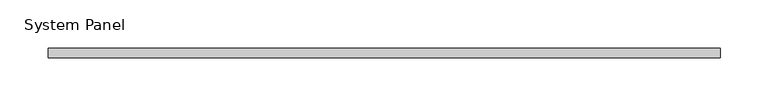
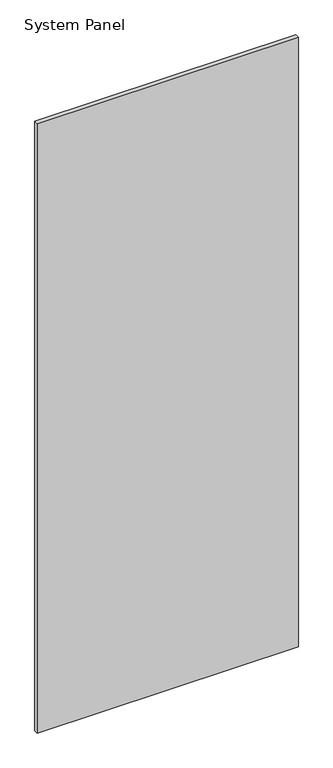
"""IFC4 building model written with IfcOpenShell, lengths in millimetres: plate geometry, System Panel : стекло_смещение_0."""

from ifc_helpers import new_model, si_unit, origin, origin_with_axes, place, context, project, spatial, polyline, outline, extrude, source, transform, mapped, element, save


def system_panel_d85b9bef(model_context):
    return source(origin(), model_context, "Body", "SweptSolid", [
        extrude(outline(polyline([(350.0, -5.0), (-350.0, -5.0), (-350.0, 5.0), (350.0, 5.0), (350.0, -5.0)])), origin_with_axes(), (0.0, 0.0, 1.0), 1725.0),
    ])


if __name__ == "__main__":
    model = new_model("IFC4")
    model_context = context("Model", 3, world=origin())
    ifc_project = project(units=[si_unit("LENGTHUNIT", "METRE", prefix="MILLI")], contexts=[model_context])
    site = spatial("IfcSite", under=ifc_project)
    building = spatial("IfcBuilding", under=site)
    placement = place(None, origin())
    system_panel_shape = system_panel_d85b9bef(model_context)
    element("IfcPlate", 1, ObjectType="System Panel : стекло_смещение_0", at=placement, inside=building, context=model_context, shape_type="MappedRepresentation", body=[
        mapped(system_panel_shape, transform((0.0, 0.0, 0.0), x_axis=(1.0, 0.0, 0.0), y_axis=(0.0, 1.0, 0.0), z_axis=(0.0, 0.0, 1.0))),
    ])
    save(model, "model.ifc")
